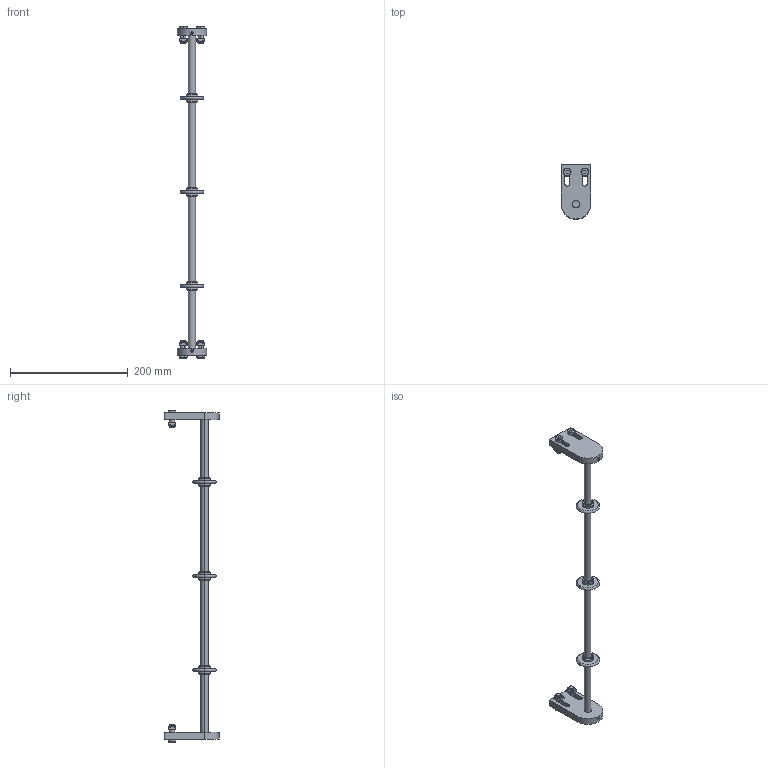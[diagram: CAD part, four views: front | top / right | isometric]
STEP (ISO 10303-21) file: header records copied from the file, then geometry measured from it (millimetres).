
FILE_DESCRIPTION (( 'STEP AP203' ), '1' );
FILE_NAME ('084.050.KSW.500.STEP', '2019-07-30T06:57:10', ( '' ), ( '' ), 'SwSTEP 2.0', 'SolidWorks 2018', '' );
FILE_SCHEMA (( 'CONFIG_CONTROL_DESIGN' ));
Length unit declared in the file: millimetre
Products named in the file (7): 084.050.KSW.500; GRANI A PUNTA PIATTA UNI 5923_M6x16 UNI 5923; 084.802.030; 084.802.041; 084.302.000 DADI ALUSIC 13x13-1_084.302.004; 084.301.000 VITI ALUSIC_084.301.004; Parte359^084.050.KSW.500
Assembly tree (16 placements, depth 2):
  084.050.KSW.500
    Parte359^084.050.KSW.500
    084.802.041  x3
    084.802.030  x2
    GRANI A PUNTA PIATTA UNI 5923_M6x16 UNI 5923  x2
    084.301.000 VITI ALUSIC_084.301.004  x4
    084.302.000 DADI ALUSIC 13x13-1_084.302.004  x4
Bounding box: 50 x 92.5 x 565 mm (x, y, z)
Volume: 185169.9 mm3; surface area: 66584.7 mm2
Topology: 16 solids, 16 shells, 288 faces, 670 edges, 432 vertices
Faces by surface type: plane 116, cylinder 82, torus 38, cone 36, bspline 16
Entity records: 4225 total; most frequent: CARTESIAN_POINT 993, DIRECTION 488, ORIENTED_EDGE 440, EDGE_CURVE 220, AXIS2_PLACEMENT_3D 191, VERTEX_POINT 142, EDGE_LOOP 112, VECTOR 106
